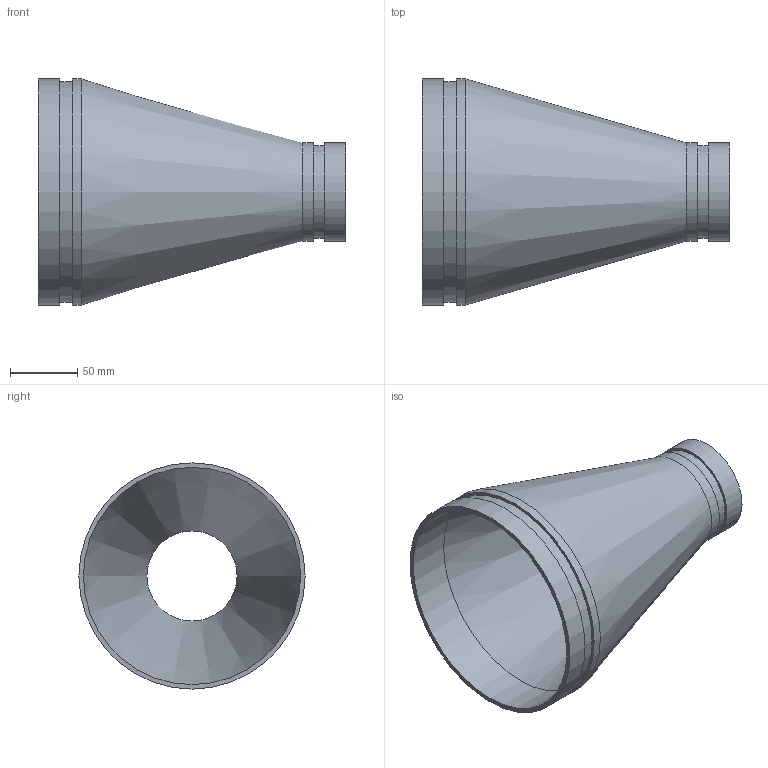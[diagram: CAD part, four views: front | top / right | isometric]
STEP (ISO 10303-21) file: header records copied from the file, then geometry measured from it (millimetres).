
FILE_DESCRIPTION(/* description */ ('VIC REDUCER CONCENTRIC No 450-SS','CAx-IF Rec.Pracs.---Representation and Presentation of Product Manufacturing Information (PMI)---4.0---2014-10-13'),/* implementation_level */ '2;1');
FILE_NAME(/* name */ 'C:\Users\kkamble\AppData\Roaming\Autodesk\ApplicationPlugins\Back Up\Victaulic_SS-OGS_Reducer Concentric_Sched 10S_No 450 SS (OGS)\Victaulic_SS-OGS_Reducer Concentric_Sched 10S_No 450 SS (OGS)_06.0x02.5 (150x65).stp',/* time_stamp */ '2020-09-08T12:33:24+05:00',/* author */ ('CORINNE GRAY'),/* organization */ ('Victaulic'),/* preprocessor_version */ 'ST-DEVELOPER v17.2',/* originating_system */ 'Autodesk Inventor 2019',/* authorisation */ '');
FILE_SCHEMA (('AP242_MANAGED_MODEL_BASED_3D_ENGINEERING_MIM_LF { 1 0 10303 442 1 1 4 }'));
Length unit declared in the file: inch
Products named in the file (1): 450 SS-06.0x02.5
Bounding box: 228.6 x 168.28 x 168.28 mm (x, y, z)
Volume: 257013.6 mm3; surface area: 178984.3 mm2
Topology: 1 solids, 1 shells, 16 faces, 42 edges, 32 vertices
Faces by surface type: cylinder 8, plane 6, cone 2
Full cylindrical faces by diameter (mm): 67.056 x1, 69.088 x1, 73.025 x2, 161.544 x1, 163.957 x1, 168.275 x2
Entity records: 686 total; most frequent: DIRECTION 134, CARTESIAN_POINT 108, ORIENTED_EDGE 84, AXIS2_PLACEMENT_3D 62, EDGE_CURVE 42, CIRCLE 32, VERTEX_POINT 32, EDGE_LOOP 22
